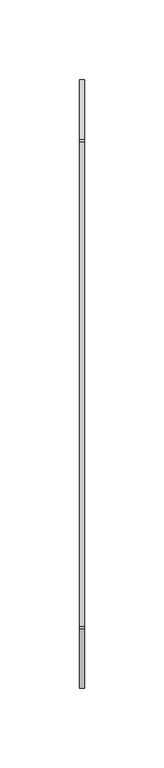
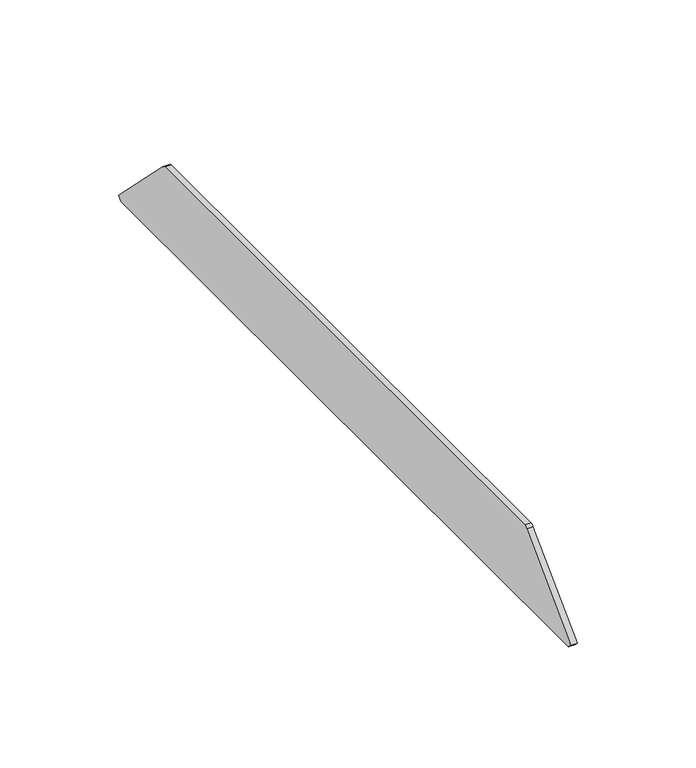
"""IFC4 building model written with IfcOpenShell, lengths in millimetres: cable carrier fitting geometry, Electrical_Installation_Hager_End-Piece : Electrical_Installation_Hager_End-Piece."""

from ifc_helpers import new_model, si_unit, point, frame, frame_2d, origin, place, context, project, spatial, polyline, circle_curve, trimmed, segment, composite_curve, outline, extrude, source, transform, mapped, element, save


def cable_carrier_fitting_91090111(model_context):
    return source(origin(), model_context, "Body", "SweptSolid", [
        extrude(outline(composite_curve([segment(polyline([(190.7213203, -17.8786797), (188.6, -20.0), (-188.6, -20.0), (-190.7213203, -17.8786797), (-153.5142136, 19.3284271)]), True, "CONTINUOUS"), segment(trimmed(circle_curve(frame_2d((-151.0170755, 17.4593317)), 3.1191692), [point((-153.5142136, 19.3284271))], [point((-151.7124549, 20.5))], False, "CARTESIAN"), True, "CONTINUOUS"), segment(polyline([(-151.7124549, 20.5), (151.7124549, 20.5)]), True, "CONTINUOUS"), segment(trimmed(circle_curve(frame_2d((150.5004738, 16.6648514)), 4.0220969), [point((151.7124549, 20.5))], [point((153.5142136, 19.3284271))], False, "CARTESIAN"), True, "CONTINUOUS"), segment(polyline([(153.5142136, 19.3284271), (190.7213203, -17.8786797)]), True, "CONTINUOUS")], self_intersect=False)), frame((0.0, 0.0, 0.0), z_axis=(1.0, 0.0, 0.0), x_axis=(0.0, 1.0, 0.0)), (0.0, 0.0, 1.0), 3.0),
    ])


if __name__ == "__main__":
    model = new_model("IFC4")
    model_context = context("Model", 3, world=origin())
    ifc_project = project(units=[si_unit("LENGTHUNIT", "METRE", prefix="MILLI")], contexts=[model_context])
    site = spatial("IfcSite", under=ifc_project)
    building = spatial("IfcBuilding", under=site)
    placement = place(None, origin())
    cable_carrier_fitting_shape = cable_carrier_fitting_91090111(model_context)
    element("IfcCableCarrierFitting", 1, ObjectType="Electrical_Installation_Hager_End-Piece : Electrical_Installation_Hager_End-Piece", at=placement, inside=building, context=model_context, shape_type="MappedRepresentation", body=[
        mapped(cable_carrier_fitting_shape, transform((0.0, 0.0, 0.0), x_axis=(1.0, 0.0, 0.0), y_axis=(0.0, 1.0, 0.0), z_axis=(0.0, 0.0, 1.0))),
    ])
    save(model, "model.ifc")
